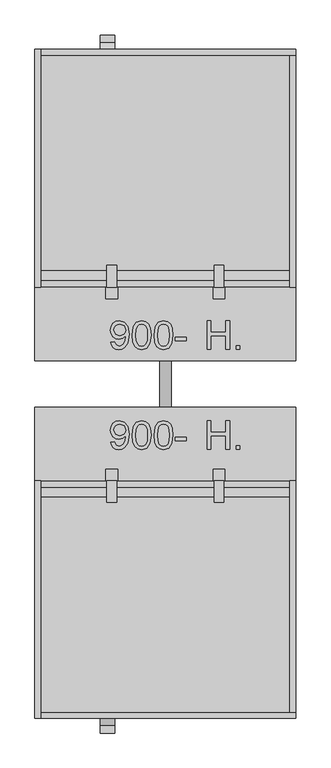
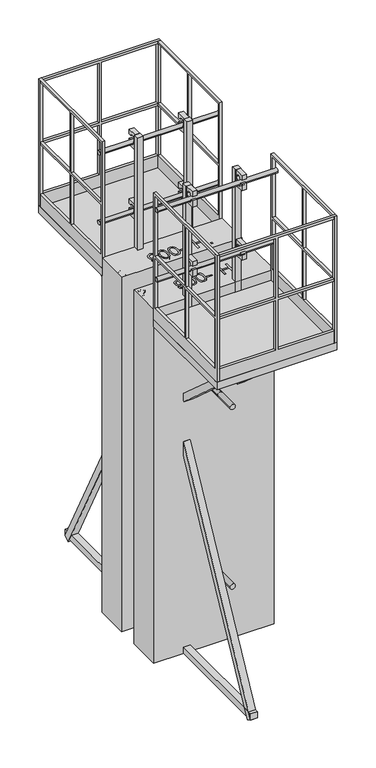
"""IFC4 building model written with IfcOpenShell, lengths in millimetres: proxy geometry, Hussor T10_Banche RNR : Hussor T10_Lg 900_Ht 2800."""

from ifc_helpers import new_model, si_unit, point, frame, frame_2d, origin, origin_with_axes, place, context, project, spatial, polyline, circle_curve, trimmed, segment, composite_curve, outline, extrude, source, transform, mapped, element, save


def generic_models_879534f5(model_context):
    return source(origin(), model_context, "Body", "SweptSolid", [
        extrude(outline(polyline([(594.6271812, -305.1349459), (594.6271812, -206.6734075), (606.9348735, -206.6734075), (606.9348735, -246.6734075), (659.2425658, -246.6734075), (659.2425658, -206.6734075), (671.5502581, -206.6734075), (671.5502581, -305.1349459), (659.2425658, -305.1349459), (659.2425658, -258.9810998), (606.9348735, -258.9810998), (606.9348735, -305.1349459), (594.6271812, -305.1349459)])), origin_with_axes(), (0.0, 0.0, 1.0), 2800.0),
        extrude(outline(polyline([(694.6271812, -305.1349459), (694.6271812, -292.8272536), (706.9348735, -292.8272536), (706.9348735, -305.1349459), (694.6271812, -305.1349459)])), origin_with_axes(), (0.0, 0.0, 1.0), 2800.0),
        extrude(outline(polyline([(262.0857558, -280.5195613), (274.3934481, -278.9810998), (279.9222943, -290.7238883), (290.4030635, -294.3657152), (300.3670058, -292.0219652), (307.1218135, -285.7599459), (311.1482558, -275.0628306), (312.927102, -260.7839844), (312.8549866, -258.3801383), (303.0112366, -267.7070613), (289.5136404, -271.2887921), (278.2906837, -269.1012921), (268.9487366, -262.5387921), (262.6476549, -252.4005709), (260.5472943, -239.4859075), (262.7498183, -226.1445613), (269.3573904, -215.6878306), (279.2822702, -208.9270133), (291.4367174, -206.6734075), (308.972775, -211.8176383), (321.0400827, -226.4810998), (325.1626789, -254.0291767), (321.052102, -283.9210036), (308.8285443, -300.8560998), (300.0214529, -305.2190806), (289.8261404, -306.6734075), (279.3033039, -304.9576623), (270.9078712, -299.8104267), (265.036477, -291.55622), (262.0857558, -280.5195613)]), holes=[polyline([(312.8549866, -239.1974459), (307.5424866, -224.4378306), (293.4319097, -218.9810998), (285.2107558, -220.4504508), (278.6242174, -224.8585036), (274.2972943, -231.6042969), (272.8549866, -240.086869), (278.3117174, -253.7286959), (293.0953712, -258.9810998), (307.2900827, -253.7286959), (311.4637606, -247.4696815), (312.8549866, -239.1974459)])]), origin_with_axes(), (0.0, 0.0, 1.0), 2800.0),
        extrude(outline(polyline([(335.9319097, -256.6974459), (339.5496981, -228.368119), (350.2948904, -212.0339844), (368.239602, -206.6734075), (382.614602, -209.8464844), (392.5424866, -218.993119), (398.3117174, -233.5604267), (400.5472943, -256.6974459), (396.9655635, -284.9065806), (386.2564289, -301.2767729), (368.239602, -306.6734075), (355.4511404, -304.3296575), (345.739602, -297.2984075), (338.3838327, -280.6457633), (335.9319097, -256.6974459)]), holes=[polyline([(348.239602, -256.6734075), (349.6819097, -276.0333834), (354.0088327, -287.2383113), (360.4511404, -292.5838642), (368.239602, -294.3657152), (376.0280635, -292.5778546), (382.4703712, -287.2142729), (386.7972943, -276.0033354), (388.239602, -256.6734075), (386.8453712, -237.7491286), (382.6626789, -226.4570613), (376.2323904, -220.8500902), (368.0953712, -218.9810998), (360.3910443, -220.6277344), (354.2011404, -225.5676383), (349.7299866, -237.5628306), (348.239602, -256.6734075)])]), origin_with_axes(), (0.0, 0.0, 1.0), 2800.0),
        extrude(outline(polyline([(411.316525, -256.6974459), (414.9343135, -228.368119), (425.6795058, -212.0339844), (443.6242174, -206.6734075), (457.9992174, -209.8464844), (467.927102, -218.993119), (473.6963327, -233.5604267), (475.9319097, -256.6974459), (472.3501789, -284.9065806), (461.6410443, -301.2767729), (443.6242174, -306.6734075), (430.8357558, -304.3296575), (421.1242174, -297.2984075), (413.7684481, -280.6457633), (411.316525, -256.6974459)]), holes=[polyline([(423.6242174, -256.6734075), (425.066525, -276.0333834), (429.3934481, -287.2383113), (435.8357558, -292.5838642), (443.6242174, -294.3657152), (451.4126789, -292.5778546), (457.8549866, -287.2142729), (462.1819097, -276.0033354), (463.6242174, -256.6734075), (462.2299866, -237.7491286), (458.0472943, -226.4570613), (451.6170058, -220.8500902), (443.4799866, -218.9810998), (435.7756597, -220.6277344), (429.5857558, -225.5676383), (425.114602, -237.5628306), (423.6242174, -256.6734075)])]), origin_with_axes(), (0.0, 0.0, 1.0), 2800.0),
        extrude(outline(polyline([(483.6242174, -275.9041767), (483.6242174, -263.5964844), (522.0857558, -263.5964844), (522.0857558, -275.9041767), (483.6242174, -275.9041767)])), origin_with_axes(), (0.0, 0.0, 1.0), 2800.0),
        extrude(outline(polyline([(594.6271812, 40.0), (594.6271812, 138.4615385), (606.9348735, 138.4615385), (606.9348735, 98.4615385), (659.2425658, 98.4615385), (659.2425658, 138.4615385), (671.5502581, 138.4615385), (671.5502581, 40.0), (659.2425658, 40.0), (659.2425658, 86.1538462), (606.9348735, 86.1538462), (606.9348735, 40.0), (594.6271812, 40.0)])), origin_with_axes(), (0.0, 0.0, 1.0), 2800.0),
        extrude(outline(polyline([(694.6271812, 40.0), (694.6271812, 52.3076923), (706.9348735, 52.3076923), (706.9348735, 40.0), (694.6271812, 40.0)])), origin_with_axes(), (0.0, 0.0, 1.0), 2800.0),
        extrude(outline(polyline([(262.0857558, 64.6153846), (274.3934481, 66.1538462), (279.9222943, 54.4110577), (290.4030635, 50.7692308), (300.3670058, 53.1129808), (307.1218135, 59.375), (311.1482558, 70.0721154), (312.927102, 84.3509615), (312.8549866, 86.7548077), (303.0112366, 77.4278846), (289.5136404, 73.8461538), (278.2906837, 76.0336538), (268.9487366, 82.5961538), (262.6476549, 92.734375), (260.5472943, 105.6490385), (262.7498183, 118.9903846), (269.3573904, 129.4471154), (279.2822702, 136.2079327), (291.4367174, 138.4615385), (308.972775, 133.3173077), (321.0400827, 118.6538462), (325.1626789, 91.1057692), (321.052102, 61.2139423), (308.8285443, 44.2788462), (300.0214529, 39.9158654), (289.8261404, 38.4615385), (279.3033039, 40.1772837), (270.9078712, 45.3245192), (265.036477, 53.578726), (262.0857558, 64.6153846)]), holes=[polyline([(312.8549866, 105.9375), (307.5424866, 120.6971154), (293.4319097, 126.1538462), (285.2107558, 124.6844952), (278.6242174, 120.2764423), (274.2972943, 113.530649), (272.8549866, 105.0480769), (278.3117174, 91.40625), (293.0953712, 86.1538462), (307.2900827, 91.40625), (311.4637606, 97.6652644), (312.8549866, 105.9375)])]), origin_with_axes(), (0.0, 0.0, 1.0), 2800.0),
        extrude(outline(polyline([(335.9319097, 88.4375), (339.5496981, 116.7668269), (350.2948904, 133.1009615), (368.239602, 138.4615385), (382.614602, 135.2884615), (392.5424866, 126.1418269), (398.3117174, 111.5745192), (400.5472943, 88.4375), (396.9655635, 60.2283654), (386.2564289, 43.8581731), (368.239602, 38.4615385), (355.4511404, 40.8052885), (345.739602, 47.8365385), (338.3838327, 64.4891827), (335.9319097, 88.4375)]), holes=[polyline([(348.239602, 88.4615385), (349.6819097, 69.1015625), (354.0088327, 57.8966346), (360.4511404, 52.5510817), (368.239602, 50.7692308), (376.0280635, 52.5570913), (382.4703712, 57.9206731), (386.7972943, 69.1316106), (388.239602, 88.4615385), (386.8453712, 107.3858173), (382.6626789, 118.6778846), (376.2323904, 124.2848558), (368.0953712, 126.1538462), (360.3910443, 124.5072115), (354.2011404, 119.5673077), (349.7299866, 107.5721154), (348.239602, 88.4615385)])]), origin_with_axes(), (0.0, 0.0, 1.0), 2800.0),
        extrude(outline(polyline([(411.316525, 88.4375), (414.9343135, 116.7668269), (425.6795058, 133.1009615), (443.6242174, 138.4615385), (457.9992174, 135.2884615), (467.927102, 126.1418269), (473.6963327, 111.5745192), (475.9319097, 88.4375), (472.3501789, 60.2283654), (461.6410443, 43.8581731), (443.6242174, 38.4615385), (430.8357558, 40.8052885), (421.1242174, 47.8365385), (413.7684481, 64.4891827), (411.316525, 88.4375)]), holes=[polyline([(423.6242174, 88.4615385), (425.066525, 69.1015625), (429.3934481, 57.8966346), (435.8357558, 52.5510817), (443.6242174, 50.7692308), (451.4126789, 52.5570913), (457.8549866, 57.9206731), (462.1819097, 69.1316106), (463.6242174, 88.4615385), (462.2299866, 107.3858173), (458.0472943, 118.6778846), (451.6170058, 124.2848558), (443.4799866, 126.1538462), (435.7756597, 124.5072115), (429.5857558, 119.5673077), (425.114602, 107.5721154), (423.6242174, 88.4615385)])]), origin_with_axes(), (0.0, 0.0, 1.0), 2800.0),
        extrude(outline(polyline([(483.6242174, 69.2307692), (483.6242174, 81.5384615), (522.0857558, 81.5384615), (522.0857558, 69.2307692), (483.6242174, 69.2307692)])), origin_with_axes(), (0.0, 0.0, 1.0), 2800.0),
        extrude(outline(composite_curve([segment(polyline([(-473.510911, 3615.0), (-474.6082276, 3608.7768085)]), True, "CONTINUOUS"), segment(trimmed(circle_curve(frame_2d((-454.9120725, 3605.3038449)), 20.0), [point((-474.6082276, 3608.7768085))], [point((-435.2159175, 3601.8308814))], True, "CARTESIAN"), True, "CONTINUOUS"), segment(polyline([(-435.2159175, 3601.8308814), (-428.2699903, 3641.2231915)]), True, "CONTINUOUS"), segment(trimmed(circle_curve(frame_2d((-447.9661454, 3644.696155)), 20.0), [point((-428.2699903, 3641.2231915))], [point((-467.6623005, 3648.1691186))], True, "CARTESIAN"), True, "CONTINUOUS"), segment(polyline([(-467.6623005, 3648.1691186), (-488.939109, 3648.0), (-488.939109, 3685.0), (-413.939109, 3685.0), (-413.939109, 3565.0), (-488.939109, 3565.0), (-488.939109, 3615.0), (-473.510911, 3615.0)]), True, "CONTINUOUS")], self_intersect=False)), frame((618.0, 0.0, 0.0), z_axis=(1.0, 0.0, 0.0), x_axis=(0.0, 1.0, 0.0)), (0.0, 0.0, 1.0), 34.0),
        extrude(outline(composite_curve([segment(polyline([(-413.939109, 3135.0), (-413.939109, 3015.0), (-488.939109, 3015.0), (-488.939109, 3065.0), (-473.510911, 3065.0), (-474.6082276, 3058.7768085)]), True, "CONTINUOUS"), segment(trimmed(circle_curve(frame_2d((-454.9120725, 3055.3038449)), 20.0), [point((-474.6082276, 3058.7768085))], [point((-435.2159175, 3051.8308814))], True, "CARTESIAN"), True, "CONTINUOUS"), segment(polyline([(-435.2159175, 3051.8308814), (-428.2699903, 3091.2231915)]), True, "CONTINUOUS"), segment(trimmed(circle_curve(frame_2d((-447.9661454, 3094.6961551)), 20.0), [point((-428.2699903, 3091.2231915))], [point((-467.6623005, 3098.1691186))], True, "CARTESIAN"), True, "CONTINUOUS"), segment(polyline([(-467.6623005, 3098.1691186), (-488.939109, 3098.0), (-488.939109, 3135.0), (-413.939109, 3135.0)]), True, "CONTINUOUS")], self_intersect=False)), frame((618.0, 0.0, 0.0), z_axis=(1.0, 0.0, 0.0), x_axis=(0.0, 1.0, 0.0)), (0.0, 0.0, 1.0), 34.0),
        extrude(outline(composite_curve([segment(polyline([(-473.510911, 3615.0), (-474.6082276, 3608.7768085)]), True, "CONTINUOUS"), segment(trimmed(circle_curve(frame_2d((-454.9120725, 3605.3038449)), 20.0), [point((-474.6082276, 3608.7768085))], [point((-435.2159175, 3601.8308814))], True, "CARTESIAN"), True, "CONTINUOUS"), segment(polyline([(-435.2159175, 3601.8308814), (-428.2699903, 3641.2231915)]), True, "CONTINUOUS"), segment(trimmed(circle_curve(frame_2d((-447.9661454, 3644.696155)), 20.0), [point((-428.2699903, 3641.2231915))], [point((-467.6623005, 3648.1691186))], True, "CARTESIAN"), True, "CONTINUOUS"), segment(polyline([(-467.6623005, 3648.1691186), (-488.939109, 3648.0), (-488.939109, 3685.0), (-413.939109, 3685.0), (-413.939109, 3565.0), (-488.939109, 3565.0), (-488.939109, 3615.0), (-473.510911, 3615.0)]), True, "CONTINUOUS")], self_intersect=False)), frame((248.0, 0.0, 0.0), z_axis=(1.0, 0.0, 0.0), x_axis=(0.0, 1.0, 0.0)), (0.0, 0.0, 1.0), 34.0),
        extrude(outline(composite_curve([segment(polyline([(-413.939109, 3135.0), (-413.939109, 3015.0), (-488.939109, 3015.0), (-488.939109, 3065.0), (-473.510911, 3065.0), (-474.6082276, 3058.7768085)]), True, "CONTINUOUS"), segment(trimmed(circle_curve(frame_2d((-454.9120725, 3055.3038449)), 20.0), [point((-474.6082276, 3058.7768085))], [point((-435.2159175, 3051.8308814))], True, "CARTESIAN"), True, "CONTINUOUS"), segment(polyline([(-435.2159175, 3051.8308814), (-428.2699903, 3091.2231915)]), True, "CONTINUOUS"), segment(trimmed(circle_curve(frame_2d((-447.9661454, 3094.6961551)), 20.0), [point((-428.2699903, 3091.2231915))], [point((-467.6623005, 3098.1691186))], True, "CARTESIAN"), True, "CONTINUOUS"), segment(polyline([(-467.6623005, 3098.1691186), (-488.939109, 3098.0), (-488.939109, 3135.0), (-413.939109, 3135.0)]), True, "CONTINUOUS")], self_intersect=False)), frame((248.0, 0.0, 0.0), z_axis=(1.0, 0.0, 0.0), x_axis=(0.0, 1.0, 0.0)), (0.0, 0.0, 1.0), 34.0),
        extrude(outline(composite_curve([segment(trimmed(circle_curve(frame_2d((-453.939109, 3606.8733785)), 16.0), [point((-469.939109, 3606.8733785))], [point((-437.939109, 3606.8733785))], False, "CARTESIAN"), True, "CONTINUOUS"), segment(trimmed(circle_curve(frame_2d((-453.939109, 3606.8733785)), 16.0), [point((-437.939109, 3606.8733785))], [point((-469.939109, 3606.8733785))], False, "CARTESIAN"), True, "CONTINUOUS")], self_intersect=False)), frame((0.0, 0.0, 0.0), z_axis=(1.0, 0.0, 0.0), x_axis=(0.0, 1.0, 0.0)), (0.0, 0.0, 1.0), 900.3116462),
        extrude(outline(composite_curve([segment(trimmed(circle_curve(frame_2d((-453.939109, 3056.6233785)), 16.0), [point((-469.939109, 3056.6233785))], [point((-437.939109, 3056.6233785))], False, "CARTESIAN"), True, "CONTINUOUS"), segment(trimmed(circle_curve(frame_2d((-453.939109, 3056.6233785)), 16.0), [point((-437.939109, 3056.6233785))], [point((-469.939109, 3056.6233785))], False, "CARTESIAN"), True, "CONTINUOUS")], self_intersect=False)), frame((0.0, 0.0, 0.0), z_axis=(1.0, 0.0, 0.0), x_axis=(0.0, 1.0, 0.0)), (0.0, 0.0, 1.0), 900.3116462),
        extrude(outline(polyline([(654.9140081, -373.939109), (654.9140081, -413.939109), (614.9140081, -413.939109), (614.9140081, -373.939109), (654.9140081, -373.939109)])), frame((0.0, 0.0, 2720.0), z_axis=(0.0, 0.0, 1.0), x_axis=(1.0, 0.0, 0.0)), (0.0, 0.0, 1.0), 965.0),
        extrude(outline(polyline([(285.0, -373.939109), (285.0, -413.939109), (245.0, -413.939109), (245.0, -373.939109), (285.0, -373.939109)])), frame((0.0, 0.0, 2720.0), z_axis=(0.0, 0.0, 1.0), x_axis=(1.0, 0.0, 0.0)), (0.0, 0.0, 1.0), 965.0),
        extrude(outline(composite_curve([segment(trimmed(circle_curve(frame_2d((600.0, 450.0)), 20.0), [point((600.0, 430.0))], [point((600.0, 470.0))], False, "CARTESIAN"), True, "CONTINUOUS"), segment(trimmed(circle_curve(frame_2d((600.0, 450.0)), 20.0), [point((600.0, 470.0))], [point((600.0, 430.0))], False, "CARTESIAN"), True, "CONTINUOUS")], self_intersect=False)), frame((0.0, -660.0, 0.0), z_axis=(0.0, 1.0, 0.0), x_axis=(0.0, 0.0, 1.0)), (0.0, 0.0, 1.0), 1000.0),
        extrude(outline(composite_curve([segment(trimmed(circle_curve(frame_2d((2020.0, 450.0)), 20.0), [point((2020.0, 430.0))], [point((2020.0, 470.0))], False, "CARTESIAN"), True, "CONTINUOUS"), segment(trimmed(circle_curve(frame_2d((2020.0, 450.0)), 20.0), [point((2020.0, 470.0))], [point((2020.0, 430.0))], False, "CARTESIAN"), True, "CONTINUOUS")], self_intersect=False)), frame((0.0, -660.0, 0.0), z_axis=(0.0, 1.0, 0.0), x_axis=(0.0, 0.0, 1.0)), (0.0, 0.0, 1.0), 1000.0),
        extrude(outline(composite_curve([segment(trimmed(circle_curve(frame_2d((2020.0, 450.0)), 20.0), [point((2020.0, 430.0))], [point((2020.0, 470.0))], False, "CARTESIAN"), True, "CONTINUOUS"), segment(trimmed(circle_curve(frame_2d((2020.0, 450.0)), 20.0), [point((2020.0, 470.0))], [point((2020.0, 430.0))], False, "CARTESIAN"), True, "CONTINUOUS")], self_intersect=False)), frame((0.0, -660.0, 0.0), z_axis=(0.0, 1.0, 0.0), x_axis=(0.0, 0.0, 1.0)), (0.0, 0.0, 1.0), 1000.0),
        extrude(outline(composite_curve([segment(trimmed(circle_curve(frame_2d((600.0, 450.0)), 20.0), [point((600.0, 430.0))], [point((600.0, 470.0))], False, "CARTESIAN"), True, "CONTINUOUS"), segment(trimmed(circle_curve(frame_2d((600.0, 450.0)), 20.0), [point((600.0, 470.0))], [point((600.0, 430.0))], False, "CARTESIAN"), True, "CONTINUOUS")], self_intersect=False)), frame((0.0, -660.0, 0.0), z_axis=(0.0, 1.0, 0.0), x_axis=(0.0, 0.0, 1.0)), (0.0, 0.0, 1.0), 1000.0),
        extrude(outline(polyline([(0.0, -993.6216584), (0.0, 0.0), (50.0, 0.0), (50.0, -993.6216584), (0.0, -993.6216584)])), frame((225.0, -422.3142578, 1994.7151475), z_axis=(0.0, 0.6662851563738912, 0.7456970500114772), x_axis=(1.0, 0.0, 0.0)), (0.0, 0.0, 1.0), 50.0),
        extrude(outline(polyline([(0.0, 993.6216584), (50.0, 993.6216584), (50.0, 0.0), (0.0, 0.0), (0.0, 993.6216584)])), frame((675.0, -422.3142578, 1994.7151475), z_axis=(0.0, 0.6662851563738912, 0.7456970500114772), x_axis=(-1.0, 0.0, 0.0)), (0.0, 0.0, 1.0), 50.0),
        extrude(outline(polyline([(0.0, -50.0), (0.0, 0.0), (50.0, 0.0), (50.0, -50.0), (0.0, -50.0)])), frame((225.0, -1239.6283217, -23.0467821), z_axis=(0.0, 0.46093564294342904, 0.8874335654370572), x_axis=(1.0, 0.0, 0.0)), (0.0, 0.0, 1.0), 1887.4652315),
        extrude(outline(polyline([(225.0, -414.0), (275.0, -414.0), (275.0, -1284.0), (225.0, -1284.0), (225.0, -414.0)])), origin_with_axes(), (0.0, 0.0, 1.0), 50.0),
        extrude(outline(polyline([(-1234.0, 3720.0), (-414.0, 3720.0), (-414.0, 2720.0), (-1234.0, 2720.0), (-1234.0, 3720.0)]), holes=[polyline([(-814.0, 3700.0), (-814.0, 3230.0), (-434.0, 3230.0), (-434.0, 3700.0), (-814.0, 3700.0)]), polyline([(-1214.0, 3700.0), (-1214.0, 3230.0), (-834.0, 3230.0), (-834.0, 3700.0), (-1214.0, 3700.0)]), polyline([(-834.0, 2820.0), (-834.0, 3210.0), (-1214.0, 3210.0), (-1214.0, 2820.0), (-834.0, 2820.0)]), polyline([(-434.0, 2820.0), (-434.0, 3210.0), (-814.0, 3210.0), (-814.0, 2820.0), (-434.0, 2820.0)])]), frame((0.0, 0.0, 0.0), z_axis=(1.0, 0.0, 0.0), x_axis=(0.0, 1.0, 0.0)), (0.0, 0.0, 1.0), 20.0),
        extrude(outline(polyline([(3720.0, 900.0), (3720.0, 0.0), (2720.0, 0.0), (2720.0, 900.0), (3720.0, 900.0)]), holes=[polyline([(3700.0, 440.0), (3230.0, 440.0), (3230.0, 20.0), (3700.0, 20.0), (3700.0, 440.0)]), polyline([(3210.0, 440.0), (2820.0, 440.0), (2820.0, 20.0), (3210.0, 20.0), (3210.0, 440.0)]), polyline([(3700.0, 880.0), (3230.0, 880.0), (3230.0, 460.0), (3700.0, 460.0), (3700.0, 880.0)]), polyline([(3210.0, 880.0), (2820.0, 880.0), (2820.0, 460.0), (3210.0, 460.0), (3210.0, 880.0)])]), frame((0.0, -1234.0, 0.0), z_axis=(0.0, 1.0, 0.0), x_axis=(0.0, 0.0, 1.0)), (0.0, 0.0, 1.0), 20.0),
        extrude(outline(polyline([(-1234.0, 3720.0), (-414.0, 3720.0), (-414.0, 2720.0), (-1234.0, 2720.0), (-1234.0, 3720.0)]), holes=[polyline([(-814.0, 3700.0), (-814.0, 3230.0), (-434.0, 3230.0), (-434.0, 3700.0), (-814.0, 3700.0)]), polyline([(-1214.0, 3700.0), (-1214.0, 3230.0), (-834.0, 3230.0), (-834.0, 3700.0), (-1214.0, 3700.0)]), polyline([(-834.0, 2820.0), (-834.0, 3210.0), (-1214.0, 3210.0), (-1214.0, 2820.0), (-834.0, 2820.0)]), polyline([(-434.0, 2820.0), (-434.0, 3210.0), (-814.0, 3210.0), (-814.0, 2820.0), (-434.0, 2820.0)])]), frame((880.0, 0.0, 0.0), z_axis=(1.0, 0.0, 0.0), x_axis=(0.0, 1.0, 0.0)), (0.0, 0.0, 1.0), 20.0),
        extrude(outline(polyline([(0.0, -414.0), (900.0, -414.0), (900.0, -1234.0), (0.0, -1234.0), (0.0, -414.0)])), frame((0.0, 0.0, 2660.0), z_axis=(0.0, 0.0, 1.0), x_axis=(1.0, 0.0, 0.0)), (0.0, 0.0, 1.0), 60.0),
        extrude(outline(polyline([(900.0, -160.0), (900.0, -414.0), (0.0, -414.0), (0.0, -160.0), (900.0, -160.0)])), origin_with_axes(), (0.0, 0.0, 1.0), 2800.0),
        extrude(outline(composite_curve([segment(polyline([(313.510911, 3615.0), (328.939109, 3615.0), (328.939109, 3565.0), (253.939109, 3565.0), (253.939109, 3685.0), (328.939109, 3685.0), (328.939109, 3648.0), (307.6623005, 3648.1691186)]), True, "CONTINUOUS"), segment(trimmed(circle_curve(frame_2d((287.9661454, 3644.696155)), 20.0), [point((307.6623005, 3648.1691186))], [point((268.2699903, 3641.2231915))], True, "CARTESIAN"), True, "CONTINUOUS"), segment(polyline([(268.2699903, 3641.2231915), (275.2159175, 3601.8308814)]), True, "CONTINUOUS"), segment(trimmed(circle_curve(frame_2d((294.9120725, 3605.3038449)), 20.0), [point((275.2159175, 3601.8308814))], [point((314.6082276, 3608.7768085))], True, "CARTESIAN"), True, "CONTINUOUS"), segment(polyline([(314.6082276, 3608.7768085), (313.510911, 3615.0)]), True, "CONTINUOUS")], self_intersect=False)), frame((618.0, 0.0, 0.0), z_axis=(1.0, 0.0, 0.0), x_axis=(0.0, 1.0, 0.0)), (0.0, 0.0, 1.0), 34.0),
        extrude(outline(composite_curve([segment(polyline([(253.939109, 3135.0), (328.939109, 3135.0), (328.939109, 3098.0), (307.6623005, 3098.1691186)]), True, "CONTINUOUS"), segment(trimmed(circle_curve(frame_2d((287.9661454, 3094.6961551)), 20.0), [point((307.6623005, 3098.1691186))], [point((268.2699903, 3091.2231915))], True, "CARTESIAN"), True, "CONTINUOUS"), segment(polyline([(268.2699903, 3091.2231915), (275.2159175, 3051.8308814)]), True, "CONTINUOUS"), segment(trimmed(circle_curve(frame_2d((294.9120725, 3055.3038449)), 20.0), [point((275.2159175, 3051.8308814))], [point((314.6082276, 3058.7768085))], True, "CARTESIAN"), True, "CONTINUOUS"), segment(polyline([(314.6082276, 3058.7768085), (313.510911, 3065.0), (328.939109, 3065.0), (328.939109, 3015.0), (253.939109, 3015.0), (253.939109, 3135.0)]), True, "CONTINUOUS")], self_intersect=False)), frame((618.0, 0.0, 0.0), z_axis=(1.0, 0.0, 0.0), x_axis=(0.0, 1.0, 0.0)), (0.0, 0.0, 1.0), 34.0),
        extrude(outline(composite_curve([segment(polyline([(313.510911, 3615.0), (328.939109, 3615.0), (328.939109, 3565.0), (253.939109, 3565.0), (253.939109, 3685.0), (328.939109, 3685.0), (328.939109, 3648.0), (307.6623005, 3648.1691186)]), True, "CONTINUOUS"), segment(trimmed(circle_curve(frame_2d((287.9661454, 3644.696155)), 20.0), [point((307.6623005, 3648.1691186))], [point((268.2699903, 3641.2231915))], True, "CARTESIAN"), True, "CONTINUOUS"), segment(polyline([(268.2699903, 3641.2231915), (275.2159175, 3601.8308814)]), True, "CONTINUOUS"), segment(trimmed(circle_curve(frame_2d((294.9120725, 3605.3038449)), 20.0), [point((275.2159175, 3601.8308814))], [point((314.6082276, 3608.7768085))], True, "CARTESIAN"), True, "CONTINUOUS"), segment(polyline([(314.6082276, 3608.7768085), (313.510911, 3615.0)]), True, "CONTINUOUS")], self_intersect=False)), frame((248.0, 0.0, 0.0), z_axis=(1.0, 0.0, 0.0), x_axis=(0.0, 1.0, 0.0)), (0.0, 0.0, 1.0), 34.0),
        extrude(outline(composite_curve([segment(polyline([(253.939109, 3135.0), (328.939109, 3135.0), (328.939109, 3098.0), (307.6623005, 3098.1691186)]), True, "CONTINUOUS"), segment(trimmed(circle_curve(frame_2d((287.9661454, 3094.6961551)), 20.0), [point((307.6623005, 3098.1691186))], [point((268.2699903, 3091.2231915))], True, "CARTESIAN"), True, "CONTINUOUS"), segment(polyline([(268.2699903, 3091.2231915), (275.2159175, 3051.8308814)]), True, "CONTINUOUS"), segment(trimmed(circle_curve(frame_2d((294.9120725, 3055.3038449)), 20.0), [point((275.2159175, 3051.8308814))], [point((314.6082276, 3058.7768085))], True, "CARTESIAN"), True, "CONTINUOUS"), segment(polyline([(314.6082276, 3058.7768085), (313.510911, 3065.0), (328.939109, 3065.0), (328.939109, 3015.0), (253.939109, 3015.0), (253.939109, 3135.0)]), True, "CONTINUOUS")], self_intersect=False)), frame((248.0, 0.0, 0.0), z_axis=(1.0, 0.0, 0.0), x_axis=(0.0, 1.0, 0.0)), (0.0, 0.0, 1.0), 34.0),
        extrude(outline(composite_curve([segment(trimmed(circle_curve(frame_2d((293.939109, 3606.8733785)), 16.0), [point((309.939109, 3606.8733785))], [point((277.939109, 3606.8733785))], False, "CARTESIAN"), True, "CONTINUOUS"), segment(trimmed(circle_curve(frame_2d((293.939109, 3606.8733785)), 16.0), [point((277.939109, 3606.8733785))], [point((309.939109, 3606.8733785))], False, "CARTESIAN"), True, "CONTINUOUS")], self_intersect=False)), frame((0.0, 0.0, 0.0), z_axis=(1.0, 0.0, 0.0), x_axis=(0.0, 1.0, 0.0)), (0.0, 0.0, 1.0), 900.3116462),
        extrude(outline(composite_curve([segment(trimmed(circle_curve(frame_2d((293.939109, 3056.6233785)), 16.0), [point((309.939109, 3056.6233785))], [point((277.939109, 3056.6233785))], False, "CARTESIAN"), True, "CONTINUOUS"), segment(trimmed(circle_curve(frame_2d((293.939109, 3056.6233785)), 16.0), [point((277.939109, 3056.6233785))], [point((309.939109, 3056.6233785))], False, "CARTESIAN"), True, "CONTINUOUS")], self_intersect=False)), frame((0.0, 0.0, 0.0), z_axis=(1.0, 0.0, 0.0), x_axis=(0.0, 1.0, 0.0)), (0.0, 0.0, 1.0), 900.3116462),
        extrude(outline(polyline([(654.9140081, 213.939109), (614.9140081, 213.939109), (614.9140081, 253.939109), (654.9140081, 253.939109), (654.9140081, 213.939109)])), frame((0.0, 0.0, 2720.0), z_axis=(0.0, 0.0, 1.0), x_axis=(1.0, 0.0, 0.0)), (0.0, 0.0, 1.0), 965.0),
        extrude(outline(polyline([(285.0, 213.939109), (245.0, 213.939109), (245.0, 253.939109), (285.0, 253.939109), (285.0, 213.939109)])), frame((0.0, 0.0, 2720.0), z_axis=(0.0, 0.0, 1.0), x_axis=(1.0, 0.0, 0.0)), (0.0, 0.0, 1.0), 965.0),
        extrude(outline(composite_curve([segment(trimmed(circle_curve(frame_2d((600.0, 450.0)), 20.0), [point((600.0, 430.0))], [point((600.0, 470.0))], False, "CARTESIAN"), True, "CONTINUOUS"), segment(trimmed(circle_curve(frame_2d((600.0, 450.0)), 20.0), [point((600.0, 470.0))], [point((600.0, 430.0))], False, "CARTESIAN"), True, "CONTINUOUS")], self_intersect=False)), frame((0.0, -500.0, 0.0), z_axis=(0.0, 1.0, 0.0), x_axis=(0.0, 0.0, 1.0)), (0.0, 0.0, 1.0), 1000.0),
        extrude(outline(composite_curve([segment(trimmed(circle_curve(frame_2d((2020.0, 450.0)), 20.0), [point((2020.0, 430.0))], [point((2020.0, 470.0))], False, "CARTESIAN"), True, "CONTINUOUS"), segment(trimmed(circle_curve(frame_2d((2020.0, 450.0)), 20.0), [point((2020.0, 470.0))], [point((2020.0, 430.0))], False, "CARTESIAN"), True, "CONTINUOUS")], self_intersect=False)), frame((0.0, -500.0, 0.0), z_axis=(0.0, 1.0, 0.0), x_axis=(0.0, 0.0, 1.0)), (0.0, 0.0, 1.0), 1000.0),
        extrude(outline(composite_curve([segment(trimmed(circle_curve(frame_2d((2020.0, 450.0)), 20.0), [point((2020.0, 430.0))], [point((2020.0, 470.0))], False, "CARTESIAN"), True, "CONTINUOUS"), segment(trimmed(circle_curve(frame_2d((2020.0, 450.0)), 20.0), [point((2020.0, 470.0))], [point((2020.0, 430.0))], False, "CARTESIAN"), True, "CONTINUOUS")], self_intersect=False)), frame((0.0, -500.0, 0.0), z_axis=(0.0, 1.0, 0.0), x_axis=(0.0, 0.0, 1.0)), (0.0, 0.0, 1.0), 1000.0),
        extrude(outline(composite_curve([segment(trimmed(circle_curve(frame_2d((600.0, 450.0)), 20.0), [point((600.0, 430.0))], [point((600.0, 470.0))], False, "CARTESIAN"), True, "CONTINUOUS"), segment(trimmed(circle_curve(frame_2d((600.0, 450.0)), 20.0), [point((600.0, 470.0))], [point((600.0, 430.0))], False, "CARTESIAN"), True, "CONTINUOUS")], self_intersect=False)), frame((0.0, -500.0, 0.0), z_axis=(0.0, 1.0, 0.0), x_axis=(0.0, 0.0, 1.0)), (0.0, 0.0, 1.0), 1000.0),
        extrude(outline(polyline([(0.0, 993.6216584), (50.0, 993.6216584), (50.0, 0.0), (0.0, 0.0), (0.0, 993.6216584)])), frame((225.0, 262.3142578, 1994.7151475), z_axis=(0.0, -0.6662851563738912, 0.7456970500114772), x_axis=(1.0, 0.0, 0.0)), (0.0, 0.0, 1.0), 50.0),
        extrude(outline(polyline([(0.0, -993.6216584), (0.0, 0.0), (50.0, 0.0), (50.0, -993.6216584), (0.0, -993.6216584)])), frame((675.0, 262.3142578, 1994.7151475), z_axis=(0.0, -0.6662851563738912, 0.7456970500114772), x_axis=(-1.0, 0.0, 0.0)), (0.0, 0.0, 1.0), 50.0),
        extrude(outline(polyline([(0.0, 50.0), (50.0, 50.0), (50.0, 0.0), (0.0, 0.0), (0.0, 50.0)])), frame((225.0, 1079.6283217, -23.0467821), z_axis=(0.0, -0.46093564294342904, 0.8874335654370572), x_axis=(1.0, 0.0, 0.0)), (0.0, 0.0, 1.0), 1887.4652315),
        extrude(outline(polyline([(225.0, 254.0), (225.0, 1124.0), (275.0, 1124.0), (275.0, 254.0), (225.0, 254.0)])), origin_with_axes(), (0.0, 0.0, 1.0), 50.0),
        extrude(outline(polyline([(1074.0, 3720.0), (1074.0, 2720.0), (254.0, 2720.0), (254.0, 3720.0), (1074.0, 3720.0)]), holes=[polyline([(654.0, 3700.0), (274.0, 3700.0), (274.0, 3230.0), (654.0, 3230.0), (654.0, 3700.0)]), polyline([(1054.0, 3700.0), (674.0, 3700.0), (674.0, 3230.0), (1054.0, 3230.0), (1054.0, 3700.0)]), polyline([(674.0, 2820.0), (1054.0, 2820.0), (1054.0, 3210.0), (674.0, 3210.0), (674.0, 2820.0)]), polyline([(274.0, 2820.0), (654.0, 2820.0), (654.0, 3210.0), (274.0, 3210.0), (274.0, 2820.0)])]), frame((0.0, 0.0, 0.0), z_axis=(1.0, 0.0, 0.0), x_axis=(0.0, 1.0, 0.0)), (0.0, 0.0, 1.0), 20.0),
        extrude(outline(polyline([(3720.0, 900.0), (3720.0, 0.0), (2720.0, 0.0), (2720.0, 900.0), (3720.0, 900.0)]), holes=[polyline([(3700.0, 440.0), (3230.0, 440.0), (3230.0, 20.0), (3700.0, 20.0), (3700.0, 440.0)]), polyline([(3210.0, 440.0), (2820.0, 440.0), (2820.0, 20.0), (3210.0, 20.0), (3210.0, 440.0)]), polyline([(3700.0, 880.0), (3230.0, 880.0), (3230.0, 460.0), (3700.0, 460.0), (3700.0, 880.0)]), polyline([(3210.0, 880.0), (2820.0, 880.0), (2820.0, 460.0), (3210.0, 460.0), (3210.0, 880.0)])]), frame((0.0, 1054.0, 0.0), z_axis=(0.0, 1.0, 0.0), x_axis=(0.0, 0.0, 1.0)), (0.0, 0.0, 1.0), 20.0),
        extrude(outline(polyline([(1074.0, 3720.0), (1074.0, 2720.0), (254.0, 2720.0), (254.0, 3720.0), (1074.0, 3720.0)]), holes=[polyline([(654.0, 3700.0), (274.0, 3700.0), (274.0, 3230.0), (654.0, 3230.0), (654.0, 3700.0)]), polyline([(1054.0, 3700.0), (674.0, 3700.0), (674.0, 3230.0), (1054.0, 3230.0), (1054.0, 3700.0)]), polyline([(674.0, 2820.0), (1054.0, 2820.0), (1054.0, 3210.0), (674.0, 3210.0), (674.0, 2820.0)]), polyline([(274.0, 2820.0), (654.0, 2820.0), (654.0, 3210.0), (274.0, 3210.0), (274.0, 2820.0)])]), frame((880.0, 0.0, 0.0), z_axis=(1.0, 0.0, 0.0), x_axis=(0.0, 1.0, 0.0)), (0.0, 0.0, 1.0), 20.0),
        extrude(outline(polyline([(0.0, 254.0), (0.0, 1074.0), (900.0, 1074.0), (900.0, 254.0), (0.0, 254.0)])), frame((0.0, 0.0, 2660.0), z_axis=(0.0, 0.0, 1.0), x_axis=(1.0, 0.0, 0.0)), (0.0, 0.0, 1.0), 60.0),
        extrude(outline(polyline([(900.0, 0.0), (0.0, 0.0), (0.0, 254.0), (900.0, 254.0), (900.0, 0.0)])), origin_with_axes(), (0.0, 0.0, 1.0), 2800.0),
        extrude(outline(polyline([(61.784475, -238.7253178), (61.784475, -247.9560871), (13.3229365, -247.9560871), (14.3145231, -241.5919044), (19.9214942, -231.7932265), (31.4779846, -221.0931063), (47.4154846, -205.7145005), (51.3998596, -195.2577698), (47.6408452, -186.7932265), (37.8241384, -183.3407025), (27.5927683, -186.7120967), (23.7075519, -196.0330102), (14.4767827, -194.879164), (16.7146132, -185.9503779), (21.5531048, -179.4284428), (38.0224558, -174.1099332), (47.3726661, -175.5882986), (54.5458933, -180.0233948), (59.1094449, -186.6489957), (60.6306288, -194.6988755), (58.9900038, -203.4518803), (53.5362779, -212.5023611), (40.3121192, -225.1495967), (29.6931288, -234.0288034), (25.5284654, -238.7253178), (61.784475, -238.7253178)])), origin_with_axes(), (0.0, 0.0, 1.0), 2800.0),
        extrude(outline(polyline([(39.0083883, 12.3486929), (29.7776191, 12.3486929), (29.7776191, 69.8967698), (21.0336287, 63.6678035), (11.3160806, 59.0073468), (11.3160806, 67.7333083), (24.8467296, 76.3691256), (33.0588691, 86.1948468), (39.0083883, 86.1948468), (39.0083883, 12.3486929)])), origin_with_axes(), (0.0, 0.0, 1.0), 2800.0),
    ])


if __name__ == "__main__":
    model = new_model("IFC4")
    model_context = context("Model", 3, world=origin())
    ifc_project = project(units=[si_unit("LENGTHUNIT", "METRE", prefix="MILLI")], contexts=[model_context])
    site = spatial("IfcSite", under=ifc_project)
    building = spatial("IfcBuilding", under=site)
    placement = place(None, origin())
    generic_models_shape = generic_models_879534f5(model_context)
    element("IfcBuildingElementProxy", 1, Name="Hussor T10_Banche RNR : Hussor T10_Lg 900_Ht 2800", ObjectType="Hussor T10_Banche RNR : Hussor T10_Lg 900_Ht 2800", at=placement, inside=building, context=model_context, shape_type="MappedRepresentation", body=[
        mapped(generic_models_shape, transform((0.0, 0.0, 0.0), x_axis=(1.0, 0.0, 0.0), y_axis=(0.0, 1.0, 0.0), z_axis=(0.0, 0.0, 1.0))),
    ])
    save(model, "model.ifc")
